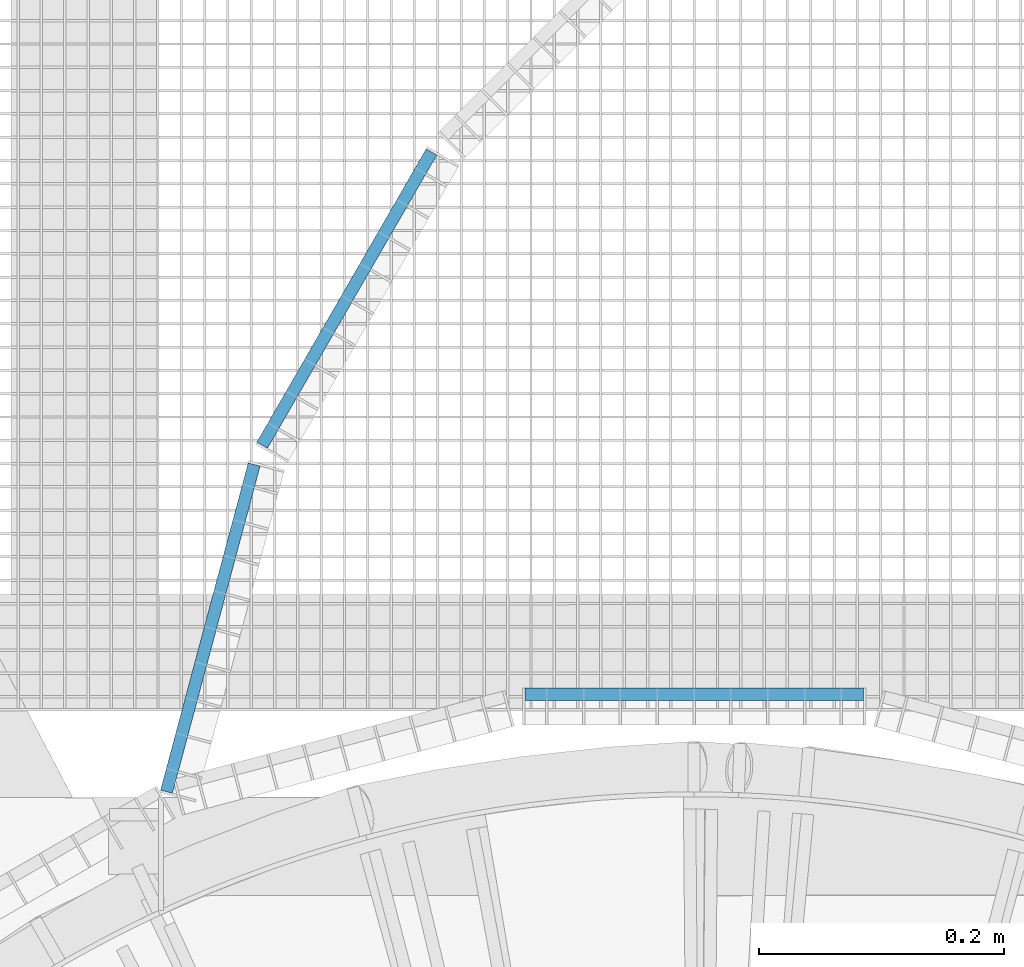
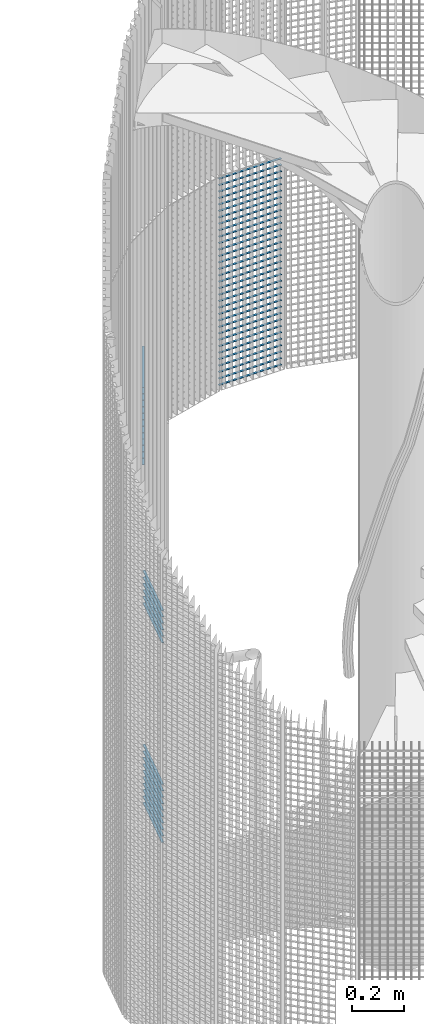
# One storey, part 328 of 1183: 62 beams, 2 elements without a shape of their own.
"""IFC2X3 building model written with IfcOpenShell, lengths in millimetres."""

from ifc_helpers import new_model, si_unit, frame, origin_with_axes, origin_2d_with_axis, place, context, subcontext, project, spatial, rectangle, extrude, material, type_object, element, aggregate, save


model = new_model("IFC2X3")

# Units and contexts
model_context = context("Model", 3, precision=1e-05, world=origin_with_axes())
body_context = subcontext(model_context, "Body", "Model", "MODEL_VIEW")
ifc_project = project(units=[si_unit("LENGTHUNIT", "METRE", prefix="MILLI"), si_unit("AREAUNIT", "SQUARE_METRE"), si_unit("VOLUMEUNIT", "CUBIC_METRE"), si_unit("MASSUNIT", "GRAM", prefix="KILO"), si_unit("TIMEUNIT", "SECOND"), si_unit("PLANEANGLEUNIT", "RADIAN"), si_unit("SOLIDANGLEUNIT", "STERADIAN"), si_unit("THERMODYNAMICTEMPERATUREUNIT", "DEGREE_CELSIUS"), si_unit("LUMINOUSINTENSITYUNIT", "LUMEN")], contexts=[model_context])

# Site, building, storey
site_placement = place(None, origin_with_axes())
site = spatial("IfcSite", under=ifc_project, at=site_placement, Name="Undefined", CompositionType="ELEMENT")
building_placement = place(site_placement, origin_with_axes())
building = spatial("IfcBuilding", under=site, at=building_placement, Name="Undefined", CompositionType="ELEMENT")
storey_placement = place(building_placement, origin_with_axes())
storey = spatial("IfcBuildingStorey", under=building, at=storey_placement, Name="Undefined", CompositionType="ELEMENT", Elevation=0.0)

# Assembly, beams
assembly_1_placement = place(storey_placement, origin_with_axes())
assembly_1 = element("IfcElementAssembly", 1, at=assembly_1_placement, inside=storey, Name="BORDURE", AssemblyPlace="NOTDEFINED", PredefinedType="NOTDEFINED")
ifc_material = material(Name="STEEL/S235JR")
beam_type = type_object("IfcBeamType", Name="PL2*10", PredefinedType="NOTDEFINED")
beam_1_placement = place(assembly_1_placement, frame((-358.548698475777, 1300.76186484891, 959.999999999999), z_axis=(-0.965925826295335, 0.258819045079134, 0.0), x_axis=(-0.258819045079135, -0.965925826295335, 0.0)))
beam_1 = element("IfcBeam", 2, at=beam_1_placement, type_object=beam_type, material=ifc_material, Name="ENTRETOISE", context=body_context, shape_type="SweptSolid", body=[
    extrude(rectangle(XDim=2.0, YDim=10.0, at=origin_2d_with_axis()), frame((275.999999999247, 9.09494701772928e-13, 1.53210777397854e-14), z_axis=(-1.0, 0.0, 0.0), x_axis=(0.0, -1.0, 0.0)), (0.0, 0.0, 1.0), 276.0),
])
beam_2_placement = place(assembly_1_placement, frame((-358.548698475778, 1300.76186484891, 299.999999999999), z_axis=(-0.965925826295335, 0.258819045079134, 0.0), x_axis=(-0.258819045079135, -0.965925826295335, 0.0)))
beam_2 = element("IfcBeam", 3, at=beam_2_placement, type_object=beam_type, material=ifc_material, Name="ENTRETOISE", context=body_context, shape_type="SweptSolid", body=[
    extrude(rectangle(XDim=2.0, YDim=10.0, at=origin_2d_with_axis()), frame((275.999999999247, 9.09494701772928e-13, 1.53210777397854e-14), z_axis=(-1.0, 0.0, 0.0), x_axis=(0.0, -1.0, 0.0)), (0.0, 0.0, 1.0), 276.0),
])
beam_3_placement = place(assembly_1_placement, frame((-358.548698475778, 1300.76186484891, 269.999999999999), z_axis=(-0.965925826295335, 0.258819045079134, 0.0), x_axis=(-0.258819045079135, -0.965925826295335, 0.0)))
beam_3 = element("IfcBeam", 4, at=beam_3_placement, type_object=beam_type, material=ifc_material, Name="ENTRETOISE", context=body_context, shape_type="SweptSolid", body=[
    extrude(rectangle(XDim=2.0, YDim=10.0, at=origin_2d_with_axis()), frame((275.999999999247, 9.09494701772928e-13, 1.53210777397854e-14), z_axis=(-1.0, 0.0, 0.0), x_axis=(0.0, -1.0, 0.0)), (0.0, 0.0, 1.0), 276.0),
])
beam_4_placement = place(assembly_1_placement, frame((-358.548698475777, 1300.76186484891, 989.999999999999), z_axis=(-0.965925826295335, 0.258819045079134, 0.0), x_axis=(-0.258819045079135, -0.965925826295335, 0.0)))
beam_4 = element("IfcBeam", 5, at=beam_4_placement, type_object=beam_type, material=ifc_material, Name="ENTRETOISE", context=body_context, shape_type="SweptSolid", body=[
    extrude(rectangle(XDim=2.0, YDim=10.0, at=origin_2d_with_axis()), frame((275.999999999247, 9.09494701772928e-13, 1.53210777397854e-14), z_axis=(-1.0, 0.0, 0.0), x_axis=(0.0, -1.0, 0.0)), (0.0, 0.0, 1.0), 276.0),
])
beam_5_placement = place(assembly_1_placement, frame((-358.548698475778, 1300.76186484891, 239.999999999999), z_axis=(-0.965925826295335, 0.258819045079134, 0.0), x_axis=(-0.258819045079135, -0.965925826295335, 0.0)))
beam_5 = element("IfcBeam", 6, at=beam_5_placement, type_object=beam_type, material=ifc_material, Name="ENTRETOISE", context=body_context, shape_type="SweptSolid", body=[
    extrude(rectangle(XDim=2.0, YDim=10.0, at=origin_2d_with_axis()), frame((275.999999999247, 9.09494701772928e-13, 1.53210777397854e-14), z_axis=(-1.0, 0.0, 0.0), x_axis=(0.0, -1.0, 0.0)), (0.0, 0.0, 1.0), 276.0),
])
beam_6_placement = place(assembly_1_placement, frame((-358.548698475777, 1300.76186484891, 1020.0), z_axis=(-0.965925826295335, 0.258819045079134, 0.0), x_axis=(-0.258819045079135, -0.965925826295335, 0.0)))
beam_6 = element("IfcBeam", 7, at=beam_6_placement, type_object=beam_type, material=ifc_material, Name="ENTRETOISE", context=body_context, shape_type="SweptSolid", body=[
    extrude(rectangle(XDim=2.0, YDim=10.0, at=origin_2d_with_axis()), frame((275.999999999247, 9.09494701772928e-13, 1.53210777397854e-14), z_axis=(-1.0, 0.0, 0.0), x_axis=(0.0, -1.0, 0.0)), (0.0, 0.0, 1.0), 276.0),
])
beam_7_placement = place(assembly_1_placement, frame((-358.548698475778, 1300.76186484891, 209.999999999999), z_axis=(-0.965925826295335, 0.258819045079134, 0.0), x_axis=(-0.258819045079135, -0.965925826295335, 0.0)))
beam_7 = element("IfcBeam", 8, at=beam_7_placement, type_object=beam_type, material=ifc_material, Name="ENTRETOISE", context=body_context, shape_type="SweptSolid", body=[
    extrude(rectangle(XDim=2.0, YDim=10.0, at=origin_2d_with_axis()), frame((275.999999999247, 9.09494701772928e-13, 1.53210777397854e-14), z_axis=(-1.0, 0.0, 0.0), x_axis=(0.0, -1.0, 0.0)), (0.0, 0.0, 1.0), 276.0),
])
beam_8_placement = place(assembly_1_placement, frame((-358.548698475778, 1300.76186484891, 179.999999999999), z_axis=(-0.965925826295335, 0.258819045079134, 0.0), x_axis=(-0.258819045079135, -0.965925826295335, 0.0)))
beam_8 = element("IfcBeam", 9, at=beam_8_placement, type_object=beam_type, material=ifc_material, Name="ENTRETOISE", context=body_context, shape_type="SweptSolid", body=[
    extrude(rectangle(XDim=2.0, YDim=10.0, at=origin_2d_with_axis()), frame((275.999999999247, 9.09494701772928e-13, 1.53210777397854e-14), z_axis=(-1.0, 0.0, 0.0), x_axis=(0.0, -1.0, 0.0)), (0.0, 0.0, 1.0), 276.0),
])
beam_9_placement = place(assembly_1_placement, frame((-358.548698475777, 1300.76186484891, 1050.0), z_axis=(-0.965925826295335, 0.258819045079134, 0.0), x_axis=(-0.258819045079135, -0.965925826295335, 0.0)))
beam_9 = element("IfcBeam", 10, at=beam_9_placement, type_object=beam_type, material=ifc_material, Name="ENTRETOISE", context=body_context, shape_type="SweptSolid", body=[
    extrude(rectangle(XDim=2.0, YDim=10.0, at=origin_2d_with_axis()), frame((275.999999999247, 9.09494701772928e-13, 1.53210777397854e-14), z_axis=(-1.0, 0.0, 0.0), x_axis=(0.0, -1.0, 0.0)), (0.0, 0.0, 1.0), 276.0),
])
beam_10_placement = place(assembly_1_placement, frame((-358.548698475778, 1300.76186484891, 149.999999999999), z_axis=(-0.965925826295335, 0.258819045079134, 0.0), x_axis=(-0.258819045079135, -0.965925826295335, 0.0)))
beam_10 = element("IfcBeam", 11, at=beam_10_placement, type_object=beam_type, material=ifc_material, Name="ENTRETOISE", context=body_context, shape_type="SweptSolid", body=[
    extrude(rectangle(XDim=2.0, YDim=10.0, at=origin_2d_with_axis()), frame((275.999999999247, 9.09494701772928e-13, 1.53210777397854e-14), z_axis=(-1.0, 0.0, 0.0), x_axis=(0.0, -1.0, 0.0)), (0.0, 0.0, 1.0), 276.0),
])
beam_11_placement = place(assembly_1_placement, frame((-358.548698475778, 1300.76186484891, 119.999999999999), z_axis=(-0.965925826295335, 0.258819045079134, 0.0), x_axis=(-0.258819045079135, -0.965925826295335, 0.0)))
beam_11 = element("IfcBeam", 12, at=beam_11_placement, type_object=beam_type, material=ifc_material, Name="ENTRETOISE", context=body_context, shape_type="SweptSolid", body=[
    extrude(rectangle(XDim=2.0, YDim=10.0, at=origin_2d_with_axis()), frame((275.999999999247, 9.09494701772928e-13, 1.53210777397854e-14), z_axis=(-1.0, 0.0, 0.0), x_axis=(0.0, -1.0, 0.0)), (0.0, 0.0, 1.0), 276.0),
])
beam_12_placement = place(assembly_1_placement, frame((-358.548698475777, 1300.76186484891, 1080.0), z_axis=(-0.965925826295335, 0.258819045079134, 0.0), x_axis=(-0.258819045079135, -0.965925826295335, 0.0)))
beam_12 = element("IfcBeam", 13, at=beam_12_placement, type_object=beam_type, material=ifc_material, Name="ENTRETOISE", context=body_context, shape_type="SweptSolid", body=[
    extrude(rectangle(XDim=2.0, YDim=10.0, at=origin_2d_with_axis()), frame((275.999999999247, 9.09494701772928e-13, 1.53210777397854e-14), z_axis=(-1.0, 0.0, 0.0), x_axis=(0.0, -1.0, 0.0)), (0.0, 0.0, 1.0), 276.0),
])
beam_13_placement = place(assembly_1_placement, frame((-358.548698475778, 1300.76186484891, 89.9999999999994), z_axis=(-0.965925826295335, 0.258819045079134, 0.0), x_axis=(-0.258819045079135, -0.965925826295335, 0.0)))
beam_13 = element("IfcBeam", 14, at=beam_13_placement, type_object=beam_type, material=ifc_material, Name="ENTRETOISE", context=body_context, shape_type="SweptSolid", body=[
    extrude(rectangle(XDim=2.0, YDim=10.0, at=origin_2d_with_axis()), frame((275.999999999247, 9.09494701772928e-13, 1.53210777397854e-14), z_axis=(-1.0, 0.0, 0.0), x_axis=(0.0, -1.0, 0.0)), (0.0, 0.0, 1.0), 276.0),
])
beam_14_placement = place(assembly_1_placement, frame((-358.548698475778, 1300.76186484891, 59.9999999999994), z_axis=(-0.965925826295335, 0.258819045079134, 0.0), x_axis=(-0.258819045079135, -0.965925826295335, 0.0)))
beam_14 = element("IfcBeam", 15, at=beam_14_placement, type_object=beam_type, material=ifc_material, Name="ENTRETOISE", context=body_context, shape_type="SweptSolid", body=[
    extrude(rectangle(XDim=2.0, YDim=10.0, at=origin_2d_with_axis()), frame((275.999999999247, 9.09494701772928e-13, 1.53210777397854e-14), z_axis=(-1.0, 0.0, 0.0), x_axis=(0.0, -1.0, 0.0)), (0.0, 0.0, 1.0), 276.0),
])
beam_15_placement = place(assembly_1_placement, frame((-358.548698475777, 1300.76186484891, 1110.0), z_axis=(-0.965925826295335, 0.258819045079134, 0.0), x_axis=(-0.258819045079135, -0.965925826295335, 0.0)))
beam_15 = element("IfcBeam", 16, at=beam_15_placement, type_object=beam_type, material=ifc_material, Name="ENTRETOISE", context=body_context, shape_type="SweptSolid", body=[
    extrude(rectangle(XDim=2.0, YDim=10.0, at=origin_2d_with_axis()), frame((275.999999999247, 9.09494701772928e-13, 1.53210777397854e-14), z_axis=(-1.0, 0.0, 0.0), x_axis=(0.0, -1.0, 0.0)), (0.0, 0.0, 1.0), 276.0),
])
beam_16_placement = place(assembly_1_placement, frame((-358.548698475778, 1300.7618648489, 29.9999999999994), z_axis=(-0.965925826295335, 0.258819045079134, 0.0), x_axis=(-0.258819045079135, -0.965925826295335, 0.0)))
beam_16 = element("IfcBeam", 17, at=beam_16_placement, type_object=beam_type, material=ifc_material, Name="ENTRETOISE", context=body_context, shape_type="SweptSolid", body=[
    extrude(rectangle(XDim=2.0, YDim=10.0, at=origin_2d_with_axis()), frame((275.999999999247, 9.09494701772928e-13, 1.53210777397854e-14), z_axis=(-1.0, 0.0, 0.0), x_axis=(0.0, -1.0, 0.0)), (0.0, 0.0, 1.0), 276.0),
])
aggregate(assembly_1, [beam_1, beam_2, beam_3, beam_4, beam_5, beam_6, beam_7, beam_8, beam_9, beam_10, beam_11, beam_12, beam_13, beam_14, beam_15, beam_16])

assembly_2_placement = place(storey_placement, origin_with_axes())
assembly_2 = element("IfcElementAssembly", 18, at=assembly_2_placement, inside=storey, Name="BORDURE", AssemblyPlace="NOTDEFINED", PredefinedType="NOTDEFINED")
beam_17_placement = place(assembly_2_placement, frame((137.996003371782, 1113.47999999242, 2970.0), z_axis=(0.0, 1.0, 0.0), x_axis=(-1.0, 0.0, 0.0)))
beam_17 = element("IfcBeam", 19, at=beam_17_placement, type_object=beam_type, material=ifc_material, Name="ENTRETOISE", context=body_context, shape_type="SweptSolid", body=[
    extrude(rectangle(XDim=2.0, YDim=10.0, at=origin_2d_with_axis()), frame((275.999999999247, 9.09494701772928e-13, 1.53210777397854e-14), z_axis=(-1.0, 0.0, 0.0), x_axis=(0.0, -1.0, 0.0)), (0.0, 0.0, 1.0), 276.0),
])
beam_18_placement = place(assembly_2_placement, frame((137.996003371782, 1113.47999999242, 2940.0), z_axis=(0.0, 1.0, 0.0), x_axis=(-1.0, 0.0, 0.0)))
beam_18 = element("IfcBeam", 20, at=beam_18_placement, type_object=beam_type, material=ifc_material, Name="ENTRETOISE", context=body_context, shape_type="SweptSolid", body=[
    extrude(rectangle(XDim=2.0, YDim=10.0, at=origin_2d_with_axis()), frame((275.999999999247, 9.09494701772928e-13, 1.53210777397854e-14), z_axis=(-1.0, 0.0, 0.0), x_axis=(0.0, -1.0, 0.0)), (0.0, 0.0, 1.0), 276.0),
])
beam_19_placement = place(assembly_2_placement, frame((137.996003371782, 1113.47999999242, 2910.0), z_axis=(0.0, 1.0, 0.0), x_axis=(-1.0, 0.0, 0.0)))
beam_19 = element("IfcBeam", 21, at=beam_19_placement, type_object=beam_type, material=ifc_material, Name="ENTRETOISE", context=body_context, shape_type="SweptSolid", body=[
    extrude(rectangle(XDim=2.0, YDim=10.0, at=origin_2d_with_axis()), frame((275.999999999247, 9.09494701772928e-13, 1.53210777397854e-14), z_axis=(-1.0, 0.0, 0.0), x_axis=(0.0, -1.0, 0.0)), (0.0, 0.0, 1.0), 276.0),
])
beam_20_placement = place(assembly_2_placement, frame((137.996003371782, 1113.47999999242, 2880.0), z_axis=(0.0, 1.0, 0.0), x_axis=(-1.0, 0.0, 0.0)))
beam_20 = element("IfcBeam", 22, at=beam_20_placement, type_object=beam_type, material=ifc_material, Name="ENTRETOISE", context=body_context, shape_type="SweptSolid", body=[
    extrude(rectangle(XDim=2.0, YDim=10.0, at=origin_2d_with_axis()), frame((275.999999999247, 9.09494701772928e-13, 1.53210777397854e-14), z_axis=(-1.0, 0.0, 0.0), x_axis=(0.0, -1.0, 0.0)), (0.0, 0.0, 1.0), 276.0),
])
beam_21_placement = place(assembly_2_placement, frame((137.996003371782, 1113.47999999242, 2850.0), z_axis=(0.0, 1.0, 0.0), x_axis=(-1.0, 0.0, 0.0)))
beam_21 = element("IfcBeam", 23, at=beam_21_placement, type_object=beam_type, material=ifc_material, Name="ENTRETOISE", context=body_context, shape_type="SweptSolid", body=[
    extrude(rectangle(XDim=2.0, YDim=10.0, at=origin_2d_with_axis()), frame((275.999999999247, 9.09494701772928e-13, 1.53210777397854e-14), z_axis=(-1.0, 0.0, 0.0), x_axis=(0.0, -1.0, 0.0)), (0.0, 0.0, 1.0), 276.0),
])
beam_22_placement = place(assembly_2_placement, frame((137.996003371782, 1113.47999999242, 2820.0), z_axis=(0.0, 1.0, 0.0), x_axis=(-1.0, 0.0, 0.0)))
beam_22 = element("IfcBeam", 24, at=beam_22_placement, type_object=beam_type, material=ifc_material, Name="ENTRETOISE", context=body_context, shape_type="SweptSolid", body=[
    extrude(rectangle(XDim=2.0, YDim=10.0, at=origin_2d_with_axis()), frame((275.999999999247, 9.09494701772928e-13, 1.53210777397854e-14), z_axis=(-1.0, 0.0, 0.0), x_axis=(0.0, -1.0, 0.0)), (0.0, 0.0, 1.0), 276.0),
])
beam_23_placement = place(assembly_2_placement, frame((137.996003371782, 1113.47999999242, 2790.0), z_axis=(0.0, 1.0, 0.0), x_axis=(-1.0, 0.0, 0.0)))
beam_23 = element("IfcBeam", 25, at=beam_23_placement, type_object=beam_type, material=ifc_material, Name="ENTRETOISE", context=body_context, shape_type="SweptSolid", body=[
    extrude(rectangle(XDim=2.0, YDim=10.0, at=origin_2d_with_axis()), frame((275.999999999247, 9.09494701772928e-13, 1.53210777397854e-14), z_axis=(-1.0, 0.0, 0.0), x_axis=(0.0, -1.0, 0.0)), (0.0, 0.0, 1.0), 276.0),
])
beam_24_placement = place(assembly_2_placement, frame((137.996003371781, 1113.47999999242, 2760.0), z_axis=(0.0, 1.0, 0.0), x_axis=(-1.0, 0.0, 0.0)))
beam_24 = element("IfcBeam", 26, at=beam_24_placement, type_object=beam_type, material=ifc_material, Name="ENTRETOISE", context=body_context, shape_type="SweptSolid", body=[
    extrude(rectangle(XDim=2.0, YDim=10.0, at=origin_2d_with_axis()), frame((275.999999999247, 9.09494701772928e-13, 1.53210777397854e-14), z_axis=(-1.0, 0.0, 0.0), x_axis=(0.0, -1.0, 0.0)), (0.0, 0.0, 1.0), 276.0),
])
beam_25_placement = place(assembly_2_placement, frame((137.996003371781, 1113.47999999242, 2730.0), z_axis=(0.0, 1.0, 0.0), x_axis=(-1.0, 0.0, 0.0)))
beam_25 = element("IfcBeam", 27, at=beam_25_placement, type_object=beam_type, material=ifc_material, Name="ENTRETOISE", context=body_context, shape_type="SweptSolid", body=[
    extrude(rectangle(XDim=2.0, YDim=10.0, at=origin_2d_with_axis()), frame((275.999999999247, 9.09494701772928e-13, 1.53210777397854e-14), z_axis=(-1.0, 0.0, 0.0), x_axis=(0.0, -1.0, 0.0)), (0.0, 0.0, 1.0), 276.0),
])
beam_26_placement = place(assembly_2_placement, frame((137.996003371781, 1113.47999999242, 2700.0), z_axis=(0.0, 1.0, 0.0), x_axis=(-1.0, 0.0, 0.0)))
beam_26 = element("IfcBeam", 28, at=beam_26_placement, type_object=beam_type, material=ifc_material, Name="ENTRETOISE", context=body_context, shape_type="SweptSolid", body=[
    extrude(rectangle(XDim=2.0, YDim=10.0, at=origin_2d_with_axis()), frame((275.999999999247, 9.09494701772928e-13, 1.53210777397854e-14), z_axis=(-1.0, 0.0, 0.0), x_axis=(0.0, -1.0, 0.0)), (0.0, 0.0, 1.0), 276.0),
])
beam_27_placement = place(assembly_2_placement, frame((137.996003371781, 1113.47999999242, 2670.0), z_axis=(0.0, 1.0, 0.0), x_axis=(-1.0, 0.0, 0.0)))
beam_27 = element("IfcBeam", 29, at=beam_27_placement, type_object=beam_type, material=ifc_material, Name="ENTRETOISE", context=body_context, shape_type="SweptSolid", body=[
    extrude(rectangle(XDim=2.0, YDim=10.0, at=origin_2d_with_axis()), frame((275.999999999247, 9.09494701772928e-13, 1.53210777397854e-14), z_axis=(-1.0, 0.0, 0.0), x_axis=(0.0, -1.0, 0.0)), (0.0, 0.0, 1.0), 276.0),
])
beam_28_placement = place(assembly_2_placement, frame((137.996003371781, 1113.47999999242, 2640.0), z_axis=(0.0, 1.0, 0.0), x_axis=(-1.0, 0.0, 0.0)))
beam_28 = element("IfcBeam", 30, at=beam_28_placement, type_object=beam_type, material=ifc_material, Name="ENTRETOISE", context=body_context, shape_type="SweptSolid", body=[
    extrude(rectangle(XDim=2.0, YDim=10.0, at=origin_2d_with_axis()), frame((275.999999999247, 9.09494701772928e-13, 1.53210777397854e-14), z_axis=(-1.0, 0.0, 0.0), x_axis=(0.0, -1.0, 0.0)), (0.0, 0.0, 1.0), 276.0),
])
beam_29_placement = place(assembly_2_placement, frame((137.996003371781, 1113.47999999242, 2610.0), z_axis=(0.0, 1.0, 0.0), x_axis=(-1.0, 0.0, 0.0)))
beam_29 = element("IfcBeam", 31, at=beam_29_placement, type_object=beam_type, material=ifc_material, Name="ENTRETOISE", context=body_context, shape_type="SweptSolid", body=[
    extrude(rectangle(XDim=2.0, YDim=10.0, at=origin_2d_with_axis()), frame((275.999999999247, 9.09494701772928e-13, 1.53210777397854e-14), z_axis=(-1.0, 0.0, 0.0), x_axis=(0.0, -1.0, 0.0)), (0.0, 0.0, 1.0), 276.0),
])
beam_30_placement = place(assembly_2_placement, frame((137.996003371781, 1113.47999999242, 2580.0), z_axis=(0.0, 1.0, 0.0), x_axis=(-1.0, 0.0, 0.0)))
beam_30 = element("IfcBeam", 32, at=beam_30_placement, type_object=beam_type, material=ifc_material, Name="ENTRETOISE", context=body_context, shape_type="SweptSolid", body=[
    extrude(rectangle(XDim=2.0, YDim=10.0, at=origin_2d_with_axis()), frame((275.999999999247, 9.09494701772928e-13, 1.53210777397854e-14), z_axis=(-1.0, 0.0, 0.0), x_axis=(0.0, -1.0, 0.0)), (0.0, 0.0, 1.0), 276.0),
])
beam_31_placement = place(assembly_2_placement, frame((137.996003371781, 1113.47999999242, 2550.0), z_axis=(0.0, 1.0, 0.0), x_axis=(-1.0, 0.0, 0.0)))
beam_31 = element("IfcBeam", 33, at=beam_31_placement, type_object=beam_type, material=ifc_material, Name="ENTRETOISE", context=body_context, shape_type="SweptSolid", body=[
    extrude(rectangle(XDim=2.0, YDim=10.0, at=origin_2d_with_axis()), frame((275.999999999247, 9.09494701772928e-13, 1.53210777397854e-14), z_axis=(-1.0, 0.0, 0.0), x_axis=(0.0, -1.0, 0.0)), (0.0, 0.0, 1.0), 276.0),
])
beam_32_placement = place(assembly_2_placement, frame((137.996003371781, 1113.47999999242, 2520.0), z_axis=(0.0, 1.0, 0.0), x_axis=(-1.0, 0.0, 0.0)))
beam_32 = element("IfcBeam", 34, at=beam_32_placement, type_object=beam_type, material=ifc_material, Name="ENTRETOISE", context=body_context, shape_type="SweptSolid", body=[
    extrude(rectangle(XDim=2.0, YDim=10.0, at=origin_2d_with_axis()), frame((275.999999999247, 9.09494701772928e-13, 1.53210777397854e-14), z_axis=(-1.0, 0.0, 0.0), x_axis=(0.0, -1.0, 0.0)), (0.0, 0.0, 1.0), 276.0),
])
beam_33_placement = place(assembly_2_placement, frame((137.99600337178, 1113.47999999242, 2490.0), z_axis=(0.0, 1.0, 0.0), x_axis=(-1.0, 0.0, 0.0)))
beam_33 = element("IfcBeam", 35, at=beam_33_placement, type_object=beam_type, material=ifc_material, Name="ENTRETOISE", context=body_context, shape_type="SweptSolid", body=[
    extrude(rectangle(XDim=2.0, YDim=10.0, at=origin_2d_with_axis()), frame((275.999999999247, 9.09494701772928e-13, 1.53210777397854e-14), z_axis=(-1.0, 0.0, 0.0), x_axis=(0.0, -1.0, 0.0)), (0.0, 0.0, 1.0), 276.0),
])
beam_34_placement = place(assembly_2_placement, frame((137.99600337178, 1113.47999999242, 2460.0), z_axis=(0.0, 1.0, 0.0), x_axis=(-1.0, 0.0, 0.0)))
beam_34 = element("IfcBeam", 36, at=beam_34_placement, type_object=beam_type, material=ifc_material, Name="ENTRETOISE", context=body_context, shape_type="SweptSolid", body=[
    extrude(rectangle(XDim=2.0, YDim=10.0, at=origin_2d_with_axis()), frame((275.999999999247, 9.09494701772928e-13, 1.53210777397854e-14), z_axis=(-1.0, 0.0, 0.0), x_axis=(0.0, -1.0, 0.0)), (0.0, 0.0, 1.0), 276.0),
])
beam_35_placement = place(assembly_2_placement, frame((137.99600337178, 1113.47999999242, 2430.0), z_axis=(0.0, 1.0, 0.0), x_axis=(-1.0, 0.0, 0.0)))
beam_35 = element("IfcBeam", 37, at=beam_35_placement, type_object=beam_type, material=ifc_material, Name="ENTRETOISE", context=body_context, shape_type="SweptSolid", body=[
    extrude(rectangle(XDim=2.0, YDim=10.0, at=origin_2d_with_axis()), frame((275.999999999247, 9.09494701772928e-13, 1.53210777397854e-14), z_axis=(-1.0, 0.0, 0.0), x_axis=(0.0, -1.0, 0.0)), (0.0, 0.0, 1.0), 276.0),
])
beam_36_placement = place(assembly_2_placement, frame((137.99600337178, 1113.47999999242, 2400.0), z_axis=(0.0, 1.0, 0.0), x_axis=(-1.0, 0.0, 0.0)))
beam_36 = element("IfcBeam", 38, at=beam_36_placement, type_object=beam_type, material=ifc_material, Name="ENTRETOISE", context=body_context, shape_type="SweptSolid", body=[
    extrude(rectangle(XDim=2.0, YDim=10.0, at=origin_2d_with_axis()), frame((275.999999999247, 9.09494701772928e-13, 1.53210777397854e-14), z_axis=(-1.0, 0.0, 0.0), x_axis=(0.0, -1.0, 0.0)), (0.0, 0.0, 1.0), 276.0),
])
beam_37_placement = place(assembly_2_placement, frame((137.99600337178, 1113.47999999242, 2370.0), z_axis=(0.0, 1.0, 0.0), x_axis=(-1.0, 0.0, 0.0)))
beam_37 = element("IfcBeam", 39, at=beam_37_placement, type_object=beam_type, material=ifc_material, Name="ENTRETOISE", context=body_context, shape_type="SweptSolid", body=[
    extrude(rectangle(XDim=2.0, YDim=10.0, at=origin_2d_with_axis()), frame((275.999999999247, 9.09494701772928e-13, 1.53210777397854e-14), z_axis=(-1.0, 0.0, 0.0), x_axis=(0.0, -1.0, 0.0)), (0.0, 0.0, 1.0), 276.0),
])
beam_38_placement = place(assembly_2_placement, frame((137.99600337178, 1113.47999999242, 2340.0), z_axis=(0.0, 1.0, 0.0), x_axis=(-1.0, 0.0, 0.0)))
beam_38 = element("IfcBeam", 40, at=beam_38_placement, type_object=beam_type, material=ifc_material, Name="ENTRETOISE", context=body_context, shape_type="SweptSolid", body=[
    extrude(rectangle(XDim=2.0, YDim=10.0, at=origin_2d_with_axis()), frame((275.999999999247, 9.09494701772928e-13, 1.53210777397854e-14), z_axis=(-1.0, 0.0, 0.0), x_axis=(0.0, -1.0, 0.0)), (0.0, 0.0, 1.0), 276.0),
])
beam_39_placement = place(assembly_2_placement, frame((137.99600337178, 1113.47999999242, 2310.0), z_axis=(0.0, 1.0, 0.0), x_axis=(-1.0, 0.0, 0.0)))
beam_39 = element("IfcBeam", 41, at=beam_39_placement, type_object=beam_type, material=ifc_material, Name="ENTRETOISE", context=body_context, shape_type="SweptSolid", body=[
    extrude(rectangle(XDim=2.0, YDim=10.0, at=origin_2d_with_axis()), frame((275.999999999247, 9.09494701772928e-13, 1.53210777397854e-14), z_axis=(-1.0, 0.0, 0.0), x_axis=(0.0, -1.0, 0.0)), (0.0, 0.0, 1.0), 276.0),
])
beam_40_placement = place(assembly_2_placement, frame((137.99600337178, 1113.47999999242, 2280.0), z_axis=(0.0, 1.0, 0.0), x_axis=(-1.0, 0.0, 0.0)))
beam_40 = element("IfcBeam", 42, at=beam_40_placement, type_object=beam_type, material=ifc_material, Name="ENTRETOISE", context=body_context, shape_type="SweptSolid", body=[
    extrude(rectangle(XDim=2.0, YDim=10.0, at=origin_2d_with_axis()), frame((275.999999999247, 9.09494701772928e-13, 1.53210777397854e-14), z_axis=(-1.0, 0.0, 0.0), x_axis=(0.0, -1.0, 0.0)), (0.0, 0.0, 1.0), 276.0),
])
beam_41_placement = place(assembly_2_placement, frame((137.99600337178, 1113.47999999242, 2250.0), z_axis=(0.0, 1.0, 0.0), x_axis=(-1.0, 0.0, 0.0)))
beam_41 = element("IfcBeam", 43, at=beam_41_placement, type_object=beam_type, material=ifc_material, Name="ENTRETOISE", context=body_context, shape_type="SweptSolid", body=[
    extrude(rectangle(XDim=2.0, YDim=10.0, at=origin_2d_with_axis()), frame((275.999999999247, 9.09494701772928e-13, 1.53210777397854e-14), z_axis=(-1.0, 0.0, 0.0), x_axis=(0.0, -1.0, 0.0)), (0.0, 0.0, 1.0), 276.0),
])
beam_42_placement = place(assembly_2_placement, frame((137.99600337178, 1113.47999999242, 2220.0), z_axis=(0.0, 1.0, 0.0), x_axis=(-1.0, 0.0, 0.0)))
beam_42 = element("IfcBeam", 44, at=beam_42_placement, type_object=beam_type, material=ifc_material, Name="ENTRETOISE", context=body_context, shape_type="SweptSolid", body=[
    extrude(rectangle(XDim=2.0, YDim=10.0, at=origin_2d_with_axis()), frame((275.999999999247, 9.09494701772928e-13, 1.53210777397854e-14), z_axis=(-1.0, 0.0, 0.0), x_axis=(0.0, -1.0, 0.0)), (0.0, 0.0, 1.0), 276.0),
])
beam_43_placement = place(assembly_2_placement, frame((137.996003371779, 1113.47999999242, 2190.0), z_axis=(0.0, 1.0, 0.0), x_axis=(-1.0, 0.0, 0.0)))
beam_43 = element("IfcBeam", 45, at=beam_43_placement, type_object=beam_type, material=ifc_material, Name="ENTRETOISE", context=body_context, shape_type="SweptSolid", body=[
    extrude(rectangle(XDim=2.0, YDim=10.0, at=origin_2d_with_axis()), frame((275.999999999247, 9.09494701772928e-13, 1.53210777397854e-14), z_axis=(-1.0, 0.0, 0.0), x_axis=(0.0, -1.0, 0.0)), (0.0, 0.0, 1.0), 276.0),
])
beam_44_placement = place(assembly_2_placement, frame((137.996003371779, 1113.47999999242, 2160.0), z_axis=(0.0, 1.0, 0.0), x_axis=(-1.0, 0.0, 0.0)))
beam_44 = element("IfcBeam", 46, at=beam_44_placement, type_object=beam_type, material=ifc_material, Name="ENTRETOISE", context=body_context, shape_type="SweptSolid", body=[
    extrude(rectangle(XDim=2.0, YDim=10.0, at=origin_2d_with_axis()), frame((275.999999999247, 9.09494701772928e-13, 1.53210777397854e-14), z_axis=(-1.0, 0.0, 0.0), x_axis=(0.0, -1.0, 0.0)), (0.0, 0.0, 1.0), 276.0),
])
beam_45_placement = place(assembly_2_placement, frame((137.996003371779, 1113.47999999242, 2130.0), z_axis=(0.0, 1.0, 0.0), x_axis=(-1.0, 0.0, 0.0)))
beam_45 = element("IfcBeam", 47, at=beam_45_placement, type_object=beam_type, material=ifc_material, Name="ENTRETOISE", context=body_context, shape_type="SweptSolid", body=[
    extrude(rectangle(XDim=2.0, YDim=10.0, at=origin_2d_with_axis()), frame((275.999999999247, 9.09494701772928e-13, 1.53210777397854e-14), z_axis=(-1.0, 0.0, 0.0), x_axis=(0.0, -1.0, 0.0)), (0.0, 0.0, 1.0), 276.0),
])
beam_46_placement = place(assembly_2_placement, frame((137.996003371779, 1113.47999999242, 2100.0), z_axis=(0.0, 1.0, 0.0), x_axis=(-1.0, 0.0, 0.0)))
beam_46 = element("IfcBeam", 48, at=beam_46_placement, type_object=beam_type, material=ifc_material, Name="ENTRETOISE", context=body_context, shape_type="SweptSolid", body=[
    extrude(rectangle(XDim=2.0, YDim=10.0, at=origin_2d_with_axis()), frame((275.999999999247, 9.09494701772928e-13, 1.53210777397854e-14), z_axis=(-1.0, 0.0, 0.0), x_axis=(0.0, -1.0, 0.0)), (0.0, 0.0, 1.0), 276.0),
])
beam_47_placement = place(assembly_2_placement, frame((137.996003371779, 1113.47999999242, 2070.0), z_axis=(0.0, 1.0, 0.0), x_axis=(-1.0, 0.0, 0.0)))
beam_47 = element("IfcBeam", 49, at=beam_47_placement, type_object=beam_type, material=ifc_material, Name="ENTRETOISE", context=body_context, shape_type="SweptSolid", body=[
    extrude(rectangle(XDim=2.0, YDim=10.0, at=origin_2d_with_axis()), frame((275.999999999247, 9.09494701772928e-13, 1.53210777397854e-14), z_axis=(-1.0, 0.0, 0.0), x_axis=(0.0, -1.0, 0.0)), (0.0, 0.0, 1.0), 276.0),
])
beam_48_placement = place(assembly_2_placement, frame((137.996003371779, 1113.47999999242, 2040.0), z_axis=(0.0, 1.0, 0.0), x_axis=(-1.0, 0.0, 0.0)))
beam_48 = element("IfcBeam", 50, at=beam_48_placement, type_object=beam_type, material=ifc_material, Name="ENTRETOISE", context=body_context, shape_type="SweptSolid", body=[
    extrude(rectangle(XDim=2.0, YDim=10.0, at=origin_2d_with_axis()), frame((275.999999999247, 9.09494701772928e-13, 1.53210777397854e-14), z_axis=(-1.0, 0.0, 0.0), x_axis=(0.0, -1.0, 0.0)), (0.0, 0.0, 1.0), 276.0),
])
beam_49_placement = place(assembly_2_placement, frame((137.996003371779, 1113.47999999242, 2010.0), z_axis=(0.0, 1.0, 0.0), x_axis=(-1.0, 0.0, 0.0)))
beam_49 = element("IfcBeam", 51, at=beam_49_placement, type_object=beam_type, material=ifc_material, Name="ENTRETOISE", context=body_context, shape_type="SweptSolid", body=[
    extrude(rectangle(XDim=2.0, YDim=10.0, at=origin_2d_with_axis()), frame((275.999999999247, 9.09494701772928e-13, 1.53210777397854e-14), z_axis=(-1.0, 0.0, 0.0), x_axis=(0.0, -1.0, 0.0)), (0.0, 0.0, 1.0), 276.0),
])
beam_50_placement = place(assembly_2_placement, frame((-214.029568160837, 1555.52617546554, 1950.0), z_axis=(-0.866025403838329, 0.499999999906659, 0.0), x_axis=(-0.49999999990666, -0.866025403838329, 0.0)))
beam_50 = element("IfcBeam", 52, at=beam_50_placement, type_object=beam_type, material=ifc_material, Name="ENTRETOISE", context=body_context, shape_type="SweptSolid", body=[
    extrude(rectangle(XDim=2.0, YDim=10.0, at=origin_2d_with_axis()), frame((275.999999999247, 9.09494701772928e-13, 1.53210777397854e-14), z_axis=(-1.0, 0.0, 0.0), x_axis=(0.0, -1.0, 0.0)), (0.0, 0.0, 1.0), 276.0),
])
beam_51_placement = place(assembly_2_placement, frame((-214.029568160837, 1555.52617546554, 1920.0), z_axis=(-0.866025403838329, 0.499999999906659, 0.0), x_axis=(-0.49999999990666, -0.866025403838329, 0.0)))
beam_51 = element("IfcBeam", 53, at=beam_51_placement, type_object=beam_type, material=ifc_material, Name="ENTRETOISE", context=body_context, shape_type="SweptSolid", body=[
    extrude(rectangle(XDim=2.0, YDim=10.0, at=origin_2d_with_axis()), frame((275.999999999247, 9.09494701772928e-13, 1.53210777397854e-14), z_axis=(-1.0, 0.0, 0.0), x_axis=(0.0, -1.0, 0.0)), (0.0, 0.0, 1.0), 276.0),
])
beam_52_placement = place(assembly_2_placement, frame((-214.029568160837, 1555.52617546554, 1890.0), z_axis=(-0.866025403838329, 0.499999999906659, 0.0), x_axis=(-0.49999999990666, -0.866025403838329, 0.0)))
beam_52 = element("IfcBeam", 54, at=beam_52_placement, type_object=beam_type, material=ifc_material, Name="ENTRETOISE", context=body_context, shape_type="SweptSolid", body=[
    extrude(rectangle(XDim=2.0, YDim=10.0, at=origin_2d_with_axis()), frame((275.999999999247, 9.09494701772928e-13, 1.53210777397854e-14), z_axis=(-1.0, 0.0, 0.0), x_axis=(0.0, -1.0, 0.0)), (0.0, 0.0, 1.0), 276.0),
])
beam_53_placement = place(assembly_2_placement, frame((-214.029568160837, 1555.52617546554, 1860.0), z_axis=(-0.866025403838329, 0.499999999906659, 0.0), x_axis=(-0.49999999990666, -0.866025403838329, 0.0)))
beam_53 = element("IfcBeam", 55, at=beam_53_placement, type_object=beam_type, material=ifc_material, Name="ENTRETOISE", context=body_context, shape_type="SweptSolid", body=[
    extrude(rectangle(XDim=2.0, YDim=10.0, at=origin_2d_with_axis()), frame((275.999999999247, 9.09494701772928e-13, 1.53210777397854e-14), z_axis=(-1.0, 0.0, 0.0), x_axis=(0.0, -1.0, 0.0)), (0.0, 0.0, 1.0), 276.0),
])
beam_54_placement = place(assembly_2_placement, frame((-214.029568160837, 1555.52617546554, 1830.0), z_axis=(-0.866025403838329, 0.499999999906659, 0.0), x_axis=(-0.49999999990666, -0.866025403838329, 0.0)))
beam_54 = element("IfcBeam", 56, at=beam_54_placement, type_object=beam_type, material=ifc_material, Name="ENTRETOISE", context=body_context, shape_type="SweptSolid", body=[
    extrude(rectangle(XDim=2.0, YDim=10.0, at=origin_2d_with_axis()), frame((275.999999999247, 9.09494701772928e-13, 1.53210777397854e-14), z_axis=(-1.0, 0.0, 0.0), x_axis=(0.0, -1.0, 0.0)), (0.0, 0.0, 1.0), 276.0),
])
beam_55_placement = place(assembly_2_placement, frame((-214.029568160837, 1555.52617546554, 1800.0), z_axis=(-0.866025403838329, 0.499999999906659, 0.0), x_axis=(-0.49999999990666, -0.866025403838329, 0.0)))
beam_55 = element("IfcBeam", 57, at=beam_55_placement, type_object=beam_type, material=ifc_material, Name="ENTRETOISE", context=body_context, shape_type="SweptSolid", body=[
    extrude(rectangle(XDim=2.0, YDim=10.0, at=origin_2d_with_axis()), frame((275.999999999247, 9.09494701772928e-13, 1.53210777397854e-14), z_axis=(-1.0, 0.0, 0.0), x_axis=(0.0, -1.0, 0.0)), (0.0, 0.0, 1.0), 276.0),
])
beam_56_placement = place(assembly_2_placement, frame((-214.029568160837, 1555.52617546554, 1770.0), z_axis=(-0.866025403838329, 0.499999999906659, 0.0), x_axis=(-0.49999999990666, -0.866025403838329, 0.0)))
beam_56 = element("IfcBeam", 58, at=beam_56_placement, type_object=beam_type, material=ifc_material, Name="ENTRETOISE", context=body_context, shape_type="SweptSolid", body=[
    extrude(rectangle(XDim=2.0, YDim=10.0, at=origin_2d_with_axis()), frame((275.999999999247, 9.09494701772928e-13, 1.53210777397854e-14), z_axis=(-1.0, 0.0, 0.0), x_axis=(0.0, -1.0, 0.0)), (0.0, 0.0, 1.0), 276.0),
])
beam_57_placement = place(assembly_2_placement, frame((-214.029568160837, 1555.52617546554, 1740.0), z_axis=(-0.866025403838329, 0.499999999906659, 0.0), x_axis=(-0.49999999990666, -0.866025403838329, 0.0)))
beam_57 = element("IfcBeam", 59, at=beam_57_placement, type_object=beam_type, material=ifc_material, Name="ENTRETOISE", context=body_context, shape_type="SweptSolid", body=[
    extrude(rectangle(XDim=2.0, YDim=10.0, at=origin_2d_with_axis()), frame((275.999999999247, 9.09494701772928e-13, 1.53210777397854e-14), z_axis=(-1.0, 0.0, 0.0), x_axis=(0.0, -1.0, 0.0)), (0.0, 0.0, 1.0), 276.0),
])
beam_58_placement = place(assembly_2_placement, frame((-214.029568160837, 1555.52617546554, 1710.0), z_axis=(-0.866025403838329, 0.499999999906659, 0.0), x_axis=(-0.49999999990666, -0.866025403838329, 0.0)))
beam_58 = element("IfcBeam", 60, at=beam_58_placement, type_object=beam_type, material=ifc_material, Name="ENTRETOISE", context=body_context, shape_type="SweptSolid", body=[
    extrude(rectangle(XDim=2.0, YDim=10.0, at=origin_2d_with_axis()), frame((275.999999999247, 9.09494701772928e-13, 1.53210777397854e-14), z_axis=(-1.0, 0.0, 0.0), x_axis=(0.0, -1.0, 0.0)), (0.0, 0.0, 1.0), 276.0),
])
beam_59_placement = place(assembly_2_placement, frame((-214.029568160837, 1555.52617546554, 1680.0), z_axis=(-0.866025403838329, 0.499999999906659, 0.0), x_axis=(-0.49999999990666, -0.866025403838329, 0.0)))
beam_59 = element("IfcBeam", 61, at=beam_59_placement, type_object=beam_type, material=ifc_material, Name="ENTRETOISE", context=body_context, shape_type="SweptSolid", body=[
    extrude(rectangle(XDim=2.0, YDim=10.0, at=origin_2d_with_axis()), frame((275.999999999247, 9.09494701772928e-13, 1.53210777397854e-14), z_axis=(-1.0, 0.0, 0.0), x_axis=(0.0, -1.0, 0.0)), (0.0, 0.0, 1.0), 276.0),
])
beam_60_placement = place(assembly_2_placement, frame((-214.029568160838, 1555.52617546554, 1650.0), z_axis=(-0.866025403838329, 0.499999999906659, 0.0), x_axis=(-0.49999999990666, -0.866025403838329, 0.0)))
beam_60 = element("IfcBeam", 62, at=beam_60_placement, type_object=beam_type, material=ifc_material, Name="ENTRETOISE", context=body_context, shape_type="SweptSolid", body=[
    extrude(rectangle(XDim=2.0, YDim=10.0, at=origin_2d_with_axis()), frame((275.999999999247, 9.09494701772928e-13, 1.53210777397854e-14), z_axis=(-1.0, 0.0, 0.0), x_axis=(0.0, -1.0, 0.0)), (0.0, 0.0, 1.0), 276.0),
])
beam_61_placement = place(assembly_2_placement, frame((-214.029568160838, 1555.52617546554, 1620.0), z_axis=(-0.866025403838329, 0.499999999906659, 0.0), x_axis=(-0.49999999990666, -0.866025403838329, 0.0)))
beam_61 = element("IfcBeam", 63, at=beam_61_placement, type_object=beam_type, material=ifc_material, Name="ENTRETOISE", context=body_context, shape_type="SweptSolid", body=[
    extrude(rectangle(XDim=2.0, YDim=10.0, at=origin_2d_with_axis()), frame((275.999999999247, 9.09494701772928e-13, 1.53210777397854e-14), z_axis=(-1.0, 0.0, 0.0), x_axis=(0.0, -1.0, 0.0)), (0.0, 0.0, 1.0), 276.0),
])
beam_62_placement = place(assembly_2_placement, frame((-214.029568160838, 1555.52617546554, 1590.0), z_axis=(-0.866025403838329, 0.499999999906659, 0.0), x_axis=(-0.49999999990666, -0.866025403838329, 0.0)))
beam_62 = element("IfcBeam", 64, at=beam_62_placement, type_object=beam_type, material=ifc_material, Name="ENTRETOISE", context=body_context, shape_type="SweptSolid", body=[
    extrude(rectangle(XDim=2.0, YDim=10.0, at=origin_2d_with_axis()), frame((275.999999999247, 9.09494701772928e-13, 1.53210777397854e-14), z_axis=(-1.0, 0.0, 0.0), x_axis=(0.0, -1.0, 0.0)), (0.0, 0.0, 1.0), 276.0),
])
aggregate(assembly_2, [beam_17, beam_18, beam_19, beam_20, beam_21, beam_22, beam_23, beam_24, beam_25, beam_26, beam_27, beam_28, beam_29, beam_30, beam_31, beam_32, beam_33, beam_34, beam_35, beam_36, beam_37, beam_38, beam_39, beam_40, beam_41, beam_42, beam_43, beam_44, beam_45, beam_46, beam_47, beam_48, beam_49, beam_50, beam_51, beam_52, beam_53, beam_54, beam_55, beam_56, beam_57, beam_58, beam_59, beam_60, beam_61, beam_62])

save(model, "model.ifc")
